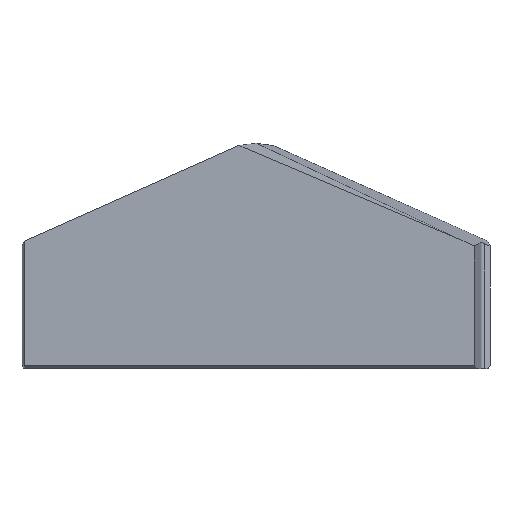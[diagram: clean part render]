
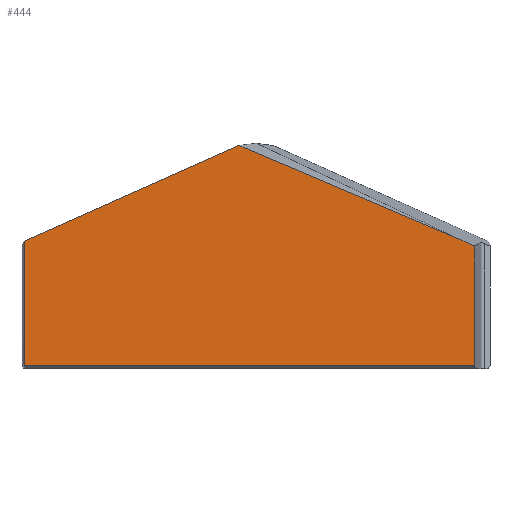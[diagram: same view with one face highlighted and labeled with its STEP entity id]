
A CAD part, top view. The second image highlights one B-rep face of the part: STEP entity #444.
In plain terms, the highlighted planar face has unit normal (0, 0, 1).
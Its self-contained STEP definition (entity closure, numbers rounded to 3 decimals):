
#3 = VECTOR ( 'NONE', #59, 1000. ) ;
#9 = EDGE_CURVE ( 'NONE', #70, #233, #633, .T. ) ;
#20 = CARTESIAN_POINT ( 'NONE',  ( -1.556, 20.397, 6.4 ) ) ;
#26 = VECTOR ( 'NONE', #45, 1000. ) ;
#31 = EDGE_LOOP ( 'NONE', ( #323, #433, #244, #331, #129, #301, #161 ) ) ;
#40 = DIRECTION ( 'NONE',  ( 1., 0., 0. ) ) ;
#45 = DIRECTION ( 'NONE',  ( -0.914, 0.407, 0. ) ) ;
#47 = VERTEX_POINT ( 'NONE', #550 ) ;
#52 = LINE ( 'NONE', #276, #26 ) ;
#59 = DIRECTION ( 'NONE',  ( 0., 1., 0. ) ) ;
#70 = VERTEX_POINT ( 'NONE', #241 ) ;
#76 = EDGE_CURVE ( 'NONE', #189, #233, #83, .T. ) ;
#78 = VERTEX_POINT ( 'NONE', #595 ) ;
#83 = LINE ( 'NONE', #493, #308 ) ;
#91 = FACE_OUTER_BOUND ( 'NONE', #31, .T. ) ;
#99 = B_SPLINE_CURVE_WITH_KNOTS ( 'NONE', 3,
 ( #167, #465, #218, #352 ),
 .UNSPECIFIED., .F., .F.,
 ( 4, 4 ),
 ( 0., 0. ),
 .UNSPECIFIED. ) ;
#129 = ORIENTED_EDGE ( 'NONE', *, *, #408, .T. ) ;
#136 = VECTOR ( 'NONE', #149, 1000. ) ;
#143 = AXIS2_PLACEMENT_3D ( 'NONE', #174, #176, #40 ) ;
#149 = DIRECTION ( 'NONE',  ( 1., 0., 0. ) ) ;
#154 = EDGE_CURVE ( 'NONE', #47, #189, #179, .T. ) ;
#161 = ORIENTED_EDGE ( 'NONE', *, *, #393, .T. ) ;
#167 = CARTESIAN_POINT ( 'NONE',  ( -21.19, 0.3, 6.4 ) ) ;
#174 = CARTESIAN_POINT ( 'NONE',  ( 0., 0., 6.4 ) ) ;
#176 = DIRECTION ( 'NONE',  ( 0., 0., 1. ) ) ;
#179 = LINE ( 'NONE', #612, #261 ) ;
#189 = VERTEX_POINT ( 'NONE', #20 ) ;
#209 = LINE ( 'NONE', #402, #495 ) ;
#218 = CARTESIAN_POINT ( 'NONE',  ( -21.185, 0.292, 6.4 ) ) ;
#233 = VERTEX_POINT ( 'NONE', #556 ) ;
#241 = CARTESIAN_POINT ( 'NONE',  ( -21.19, 0.3, 6.4 ) ) ;
#244 = ORIENTED_EDGE ( 'NONE', *, *, #76, .T. ) ;
#258 = EDGE_CURVE ( 'NONE', #78, #348, #390, .T. ) ;
#261 = VECTOR ( 'NONE', #299, 1000. ) ;
#273 = PLANE ( 'NONE',  #143 ) ;
#276 = CARTESIAN_POINT ( 'NONE',  ( 7.471, 16.779, 6.4 ) ) ;
#299 = DIRECTION ( 'NONE',  ( -0.92, 0.391, 0. ) ) ;
#301 = ORIENTED_EDGE ( 'NONE', *, *, #258, .T. ) ;
#308 = VECTOR ( 'NONE', #604, 1000. ) ;
#320 = CARTESIAN_POINT ( 'NONE',  ( 19.98, 11.21, 6.4 ) ) ;
#323 = ORIENTED_EDGE ( 'NONE', *, *, #588, .T. ) ;
#331 = ORIENTED_EDGE ( 'NONE', *, *, #9, .F. ) ;
#348 = VERTEX_POINT ( 'NONE', #521 ) ;
#352 = CARTESIAN_POINT ( 'NONE',  ( -21.183, 0.289, 6.4 ) ) ;
#390 = LINE ( 'NONE', #459, #136 ) ;
#393 = EDGE_CURVE ( 'NONE', #348, #620, #209, .T. ) ;
#402 = CARTESIAN_POINT ( 'NONE',  ( 19.98, 0., 6.4 ) ) ;
#406 = CARTESIAN_POINT ( 'NONE',  ( -21.19, 0., 6.4 ) ) ;
#408 = EDGE_CURVE ( 'NONE', #70, #78, #99, .T. ) ;
#410 = DIRECTION ( 'NONE',  ( 0., 1., 0. ) ) ;
#433 = ORIENTED_EDGE ( 'NONE', *, *, #154, .T. ) ;
#444 = ADVANCED_FACE ( 'NONE', ( #91 ), #273, .T. ) ;
#459 = CARTESIAN_POINT ( 'NONE',  ( 21.015, 0.289, 6.4 ) ) ;
#465 = CARTESIAN_POINT ( 'NONE',  ( -21.188, 0.296, 6.4 ) ) ;
#493 = CARTESIAN_POINT ( 'NONE',  ( 0., 21.09, 6.4 ) ) ;
#495 = VECTOR ( 'NONE', #410, 1000. ) ;
#521 = CARTESIAN_POINT ( 'NONE',  ( 19.98, 0.289, 6.4 ) ) ;
#550 = CARTESIAN_POINT ( 'NONE',  ( 18.456, 11.888, 6.4 ) ) ;
#556 = CARTESIAN_POINT ( 'NONE',  ( -21.19, 11.656, 6.4 ) ) ;
#588 = EDGE_CURVE ( 'NONE', #620, #47, #52, .T. ) ;
#595 = CARTESIAN_POINT ( 'NONE',  ( -21.183, 0.289, 6.4 ) ) ;
#604 = DIRECTION ( 'NONE',  ( -0.914, -0.407, 0. ) ) ;
#612 = CARTESIAN_POINT ( 'NONE',  ( 7.107, 16.714, 6.4 ) ) ;
#620 = VERTEX_POINT ( 'NONE', #320 ) ;
#633 = LINE ( 'NONE', #406, #3 ) ;
